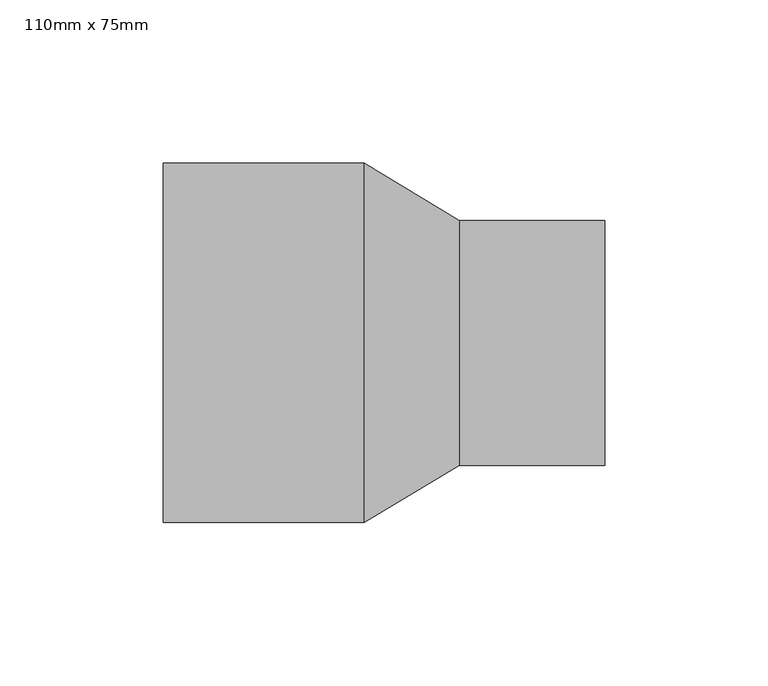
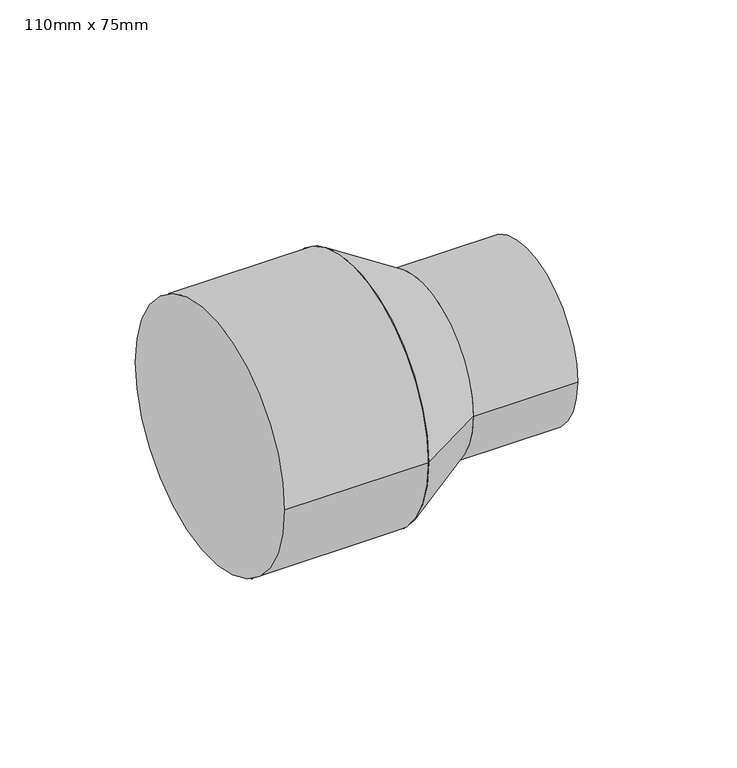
"""IFC4 building model written with IfcOpenShell, lengths in millimetres: pipe fitting geometry, PipeFitting_HTA_CPVC_ReducingBushesLongPattern : 110mm x 75mm."""

from ifc_helpers import new_model, si_unit, point, frame, origin, origin_2d, place, context, project, spatial, polyline, circle_curve, trimmed, segment, composite_curve, outline, extrude, source, transform, mapped, element, save
from ifc_brep_helpers import plane_surface, revolved_surface, advanced_brep


def pipe_fitting_110mm_x_75mm_89f4cc61(model_context):
    return source(origin(), model_context, "Body", "SolidModel", [
        advanced_brep(
        [(90.5, -37.5, 0.0), (90.5, 37.5, 0.0), (61.5, -55.0, 0.0), (61.5, 55.0, 0.0)],
        [
            (0, 1, circle_curve(frame((90.5, 0.0, 0.0), z_axis=(1.0, 0.0, 0.0), x_axis=(0.0, -1.0, 0.0)), 37.5)),
            (1, 0, circle_curve(frame((90.5, 0.0, 0.0), z_axis=(1.0, 0.0, 0.0), x_axis=(0.0, 1.0, 0.0)), 37.5)),
            (2, 3, circle_curve(frame((61.5, 0.0, 0.0), z_axis=(-1.0, 0.0, 0.0), x_axis=(0.0, 1.0, 0.0)), 55.0)),
            (3, 2, circle_curve(frame((61.5, 0.0, 0.0), z_axis=(-1.0, 0.0, 0.0), x_axis=(0.0, -1.0, 0.0)), 55.0)),
            (3, 1),
            (0, 2),
        ],
        [
            plane_surface(frame((90.5, 0.0, 0.0), z_axis=(1.0, 0.0, 0.0), x_axis=(0.0, 0.0, -1.0))),
            plane_surface(frame((61.5, 0.0, 0.0), z_axis=(-1.0, 0.0, 0.0), x_axis=(0.0, 0.0, -1.0))),
            revolved_surface(polyline([(90.5, -37.499999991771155, 0.0), (61.5, -55.0, 0.0)]), (152.6428571, 0.0, 0.0), (-1.0, 0.0, 0.0)),
            revolved_surface(polyline([(90.5, 37.499999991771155, 0.0), (61.5, 55.0, 0.0)]), (152.6428571, 0.0, 0.0), (-1.0, 0.0, 0.0)),
        ],
        [
            (0, [[1, 2]]),
            (1, [[3, 4]]),
            (2, [[-4, 5, -1, 6]]),
            (3, [[-3, -6, -2, -5]]),
        ],
    ),
        extrude(outline(composite_curve([segment(trimmed(circle_curve(origin_2d(), 37.5), [point((-37.5, 0.0))], [point((37.5, 0.0))], False, "CARTESIAN"), True, "CONTINUOUS"), segment(trimmed(circle_curve(origin_2d(), 37.5), [point((37.5, 0.0))], [point((-37.5, 0.0))], False, "CARTESIAN"), True, "CONTINUOUS")], self_intersect=False)), frame((90.5, 0.0, 0.0), z_axis=(1.0, 0.0, 0.0), x_axis=(0.0, 1.0, 0.0)), (0.0, 0.0, 1.0), 44.5),
        extrude(outline(composite_curve([segment(trimmed(circle_curve(origin_2d(), 55.0), [point((-55.0, 0.0))], [point((55.0, 0.0))], False, "CARTESIAN"), True, "CONTINUOUS"), segment(trimmed(circle_curve(origin_2d(), 55.0), [point((55.0, 0.0))], [point((-55.0, 0.0))], False, "CARTESIAN"), True, "CONTINUOUS")], self_intersect=False)), frame((0.0, 0.0, 0.0), z_axis=(1.0, 0.0, 0.0), x_axis=(0.0, 1.0, 0.0)), (0.0, 0.0, 1.0), 61.5),
    ])


if __name__ == "__main__":
    model = new_model("IFC4")
    model_context = context("Model", 3, world=origin())
    ifc_project = project(units=[si_unit("LENGTHUNIT", "METRE", prefix="MILLI")], contexts=[model_context])
    site = spatial("IfcSite", under=ifc_project)
    building = spatial("IfcBuilding", under=site)
    placement = place(None, origin())
    pipe_fitting_110mm_x_75mm_shape = pipe_fitting_110mm_x_75mm_89f4cc61(model_context)
    element("IfcPipeFitting", 1, ObjectType="PipeFitting_HTA_CPVC_ReducingBushesLongPattern : 110mm x 75mm", at=placement, inside=building, context=model_context, shape_type="MappedRepresentation", body=[
        mapped(pipe_fitting_110mm_x_75mm_shape, transform((0.0, 0.0, 0.0), x_axis=(1.0, 0.0, 0.0), y_axis=(0.0, 1.0, 0.0), z_axis=(0.0, 0.0, 1.0))),
    ])
    save(model, "model.ifc")
